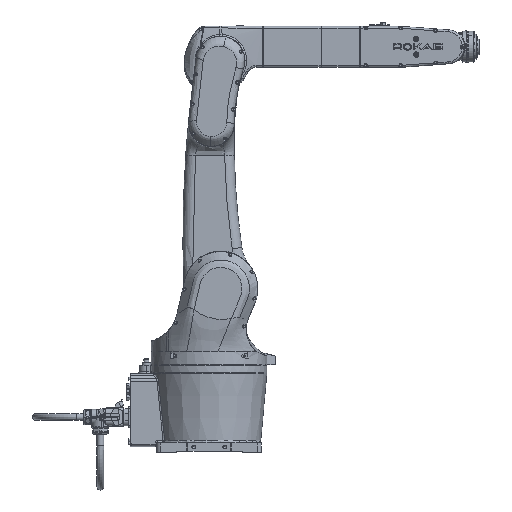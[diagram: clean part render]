
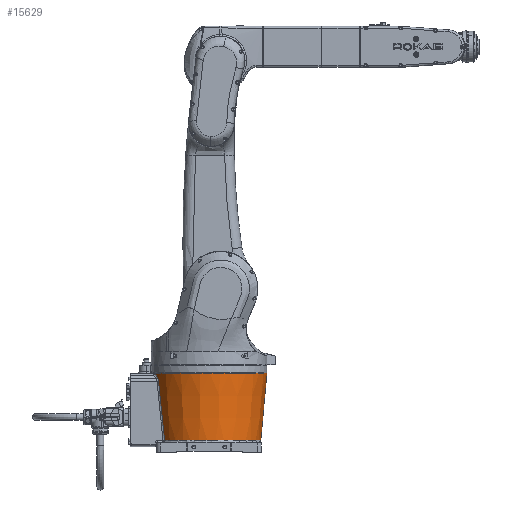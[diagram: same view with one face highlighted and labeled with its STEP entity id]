
A CAD part, front view. The second image highlights one B-rep face of the part: STEP entity #15629.
In plain terms, the highlighted conical face has half-angle 5.108 degrees and reference radius 133 mm.
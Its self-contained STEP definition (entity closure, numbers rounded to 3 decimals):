
#2725=CONICAL_SURFACE('',#70147,133.,5.108);
#3372=CIRCLE('',#70144,133.487);
#3373=CIRCLE('',#70145,133.487);
#3374=CIRCLE('',#70146,148.96);
#15629=ADVANCED_FACE('',(#21958),#2725,.T.);
#21958=FACE_OUTER_BOUND('',#25722,.T.);
#25722=EDGE_LOOP('',(#31470,#31471,#31472,#31473,#31474,#31475,#31476,#31477,
#31478,#31479,#31480,#31481,#31482,#31483));
#31470=ORIENTED_EDGE('',*,*,#57339,.T.);
#31471=ORIENTED_EDGE('',*,*,#57340,.T.);
#31472=ORIENTED_EDGE('',*,*,#57341,.T.);
#31473=ORIENTED_EDGE('',*,*,#57342,.T.);
#31474=ORIENTED_EDGE('',*,*,#57343,.T.);
#31475=ORIENTED_EDGE('',*,*,#57344,.T.);
#31476=ORIENTED_EDGE('',*,*,#57345,.T.);
#31477=ORIENTED_EDGE('',*,*,#57346,.T.);
#31478=ORIENTED_EDGE('',*,*,#57347,.T.);
#31479=ORIENTED_EDGE('',*,*,#57348,.T.);
#31480=ORIENTED_EDGE('',*,*,#57349,.T.);
#31481=ORIENTED_EDGE('',*,*,#57350,.T.);
#31482=ORIENTED_EDGE('',*,*,#57351,.T.);
#31483=ORIENTED_EDGE('',*,*,#57352,.T.);
#51026=VERTEX_POINT('',#95939);
#51027=VERTEX_POINT('',#95940);
#51028=VERTEX_POINT('',#95945);
#51029=VERTEX_POINT('',#95947);
#51030=VERTEX_POINT('',#95958);
#51031=VERTEX_POINT('',#95960);
#51032=VERTEX_POINT('',#95965);
#51033=VERTEX_POINT('',#95970);
#51034=VERTEX_POINT('',#95977);
#51035=VERTEX_POINT('',#95984);
#51036=VERTEX_POINT('',#95989);
#51037=VERTEX_POINT('',#95991);
#51038=VERTEX_POINT('',#95996);
#51039=VERTEX_POINT('',#96003);
#57339=EDGE_CURVE('',#51026,#51027,#67054,.T.);
#57340=EDGE_CURVE('',#51027,#51028,#67055,.T.);
#57341=EDGE_CURVE('',#51028,#51029,#3372,.T.);
#57342=EDGE_CURVE('',#51029,#51030,#67056,.T.);
#57343=EDGE_CURVE('',#51030,#51031,#3373,.T.);
#57344=EDGE_CURVE('',#51031,#51032,#67057,.T.);
#57345=EDGE_CURVE('',#51032,#51033,#67058,.T.);
#57346=EDGE_CURVE('',#51033,#51034,#67059,.T.);
#57347=EDGE_CURVE('',#51034,#51035,#67060,.T.);
#57348=EDGE_CURVE('',#51035,#51036,#67061,.T.);
#57349=EDGE_CURVE('',#51036,#51037,#3374,.T.);
#57350=EDGE_CURVE('',#51037,#51038,#67062,.T.);
#57351=EDGE_CURVE('',#51038,#51039,#67063,.T.);
#57352=EDGE_CURVE('',#51039,#51026,#67064,.T.);
#67054=B_SPLINE_CURVE_WITH_KNOTS('',3,(#95935,#95936,#95937,#95938),
 .UNSPECIFIED.,.F.,.F.,(4,4),(0.,1.),.UNSPECIFIED.);
#67055=B_SPLINE_CURVE_WITH_KNOTS('',3,(#95941,#95942,#95943,#95944),
 .UNSPECIFIED.,.F.,.F.,(4,4),(0.,1.),.UNSPECIFIED.);
#67056=B_SPLINE_CURVE_WITH_KNOTS('',3,(#95948,#95949,#95950,#95951,#95952,
#95953,#95954,#95955,#95956,#95957),.UNSPECIFIED.,.F.,.F.,(4,2,2,2,4),(0.,
0.25,0.5,0.75,1.),.UNSPECIFIED.);
#67057=B_SPLINE_CURVE_WITH_KNOTS('',3,(#95961,#95962,#95963,#95964),
 .UNSPECIFIED.,.F.,.F.,(4,4),(0.,1.),.UNSPECIFIED.);
#67058=B_SPLINE_CURVE_WITH_KNOTS('',3,(#95966,#95967,#95968,#95969),
 .UNSPECIFIED.,.F.,.F.,(4,4),(0.,1.),.UNSPECIFIED.);
#67059=B_SPLINE_CURVE_WITH_KNOTS('',3,(#95971,#95972,#95973,#95974,#95975,
#95976),.UNSPECIFIED.,.F.,.F.,(4,2,4),(0.,0.5,1.),.UNSPECIFIED.);
#67060=B_SPLINE_CURVE_WITH_KNOTS('',3,(#95978,#95979,#95980,#95981,#95982,
#95983),.UNSPECIFIED.,.F.,.F.,(4,2,4),(0.,0.707,1.),
 .UNSPECIFIED.);
#67061=B_SPLINE_CURVE_WITH_KNOTS('',3,(#95985,#95986,#95987,#95988),
 .UNSPECIFIED.,.F.,.F.,(4,4),(0.,1.),.UNSPECIFIED.);
#67062=B_SPLINE_CURVE_WITH_KNOTS('',3,(#95992,#95993,#95994,#95995),
 .UNSPECIFIED.,.F.,.F.,(4,4),(0.,1.),.UNSPECIFIED.);
#67063=B_SPLINE_CURVE_WITH_KNOTS('',3,(#95997,#95998,#95999,#96000,#96001,
#96002),.UNSPECIFIED.,.F.,.F.,(4,2,4),(0.,0.707,1.),
 .UNSPECIFIED.);
#67064=B_SPLINE_CURVE_WITH_KNOTS('',3,(#96004,#96005,#96006,#96007,#96008,
#96009),.UNSPECIFIED.,.F.,.F.,(4,2,4),(0.,0.5,1.),.UNSPECIFIED.);
#70144=AXIS2_PLACEMENT_3D('',#95946,#77343,#77344);
#70145=AXIS2_PLACEMENT_3D('',#95959,#77345,#77346);
#70146=AXIS2_PLACEMENT_3D('',#95990,#77347,#77348);
#70147=AXIS2_PLACEMENT_3D('',#96010,#77349,#77350);
#77343=DIRECTION('',(0.,0.,1.));
#77344=DIRECTION('',(-1.,0.,0.));
#77345=DIRECTION('',(0.,0.,1.));
#77346=DIRECTION('',(-1.,0.,0.));
#77347=DIRECTION('',(0.,0.,-1.));
#77348=DIRECTION('',(1.,0.,0.));
#77349=DIRECTION('',(0.,0.,1.));
#77350=DIRECTION('',(-1.,0.,0.));
#95935=CARTESIAN_POINT('',(-130.53,-67.707,182.135));
#95936=CARTESIAN_POINT('',(-129.277,-67.69,169.599));
#95937=CARTESIAN_POINT('',(-128.036,-67.673,157.22));
#95938=CARTESIAN_POINT('',(-126.807,-67.656,145.));
#95939=CARTESIAN_POINT('',(-130.53,-67.707,182.135));
#95940=CARTESIAN_POINT('',(-126.807,-67.656,145.));
#95941=CARTESIAN_POINT('',(-126.807,-67.656,145.));
#95942=CARTESIAN_POINT('',(-122.799,-67.6,105.147));
#95943=CARTESIAN_POINT('',(-118.921,-67.542,66.962));
#95944=CARTESIAN_POINT('',(-115.173,-67.482,30.445));
#95945=CARTESIAN_POINT('',(-115.173,-67.482,30.445));
#95946=CARTESIAN_POINT('',(0.,0.,30.445));
#95947=CARTESIAN_POINT('',(128.216,-37.138,30.445));
#95948=CARTESIAN_POINT('',(128.216,-37.138,30.445));
#95949=CARTESIAN_POINT('',(129.97,-31.084,30.445));
#95950=CARTESIAN_POINT('',(131.228,-24.929,29.795));
#95951=CARTESIAN_POINT('',(132.878,-12.547,28.608));
#95952=CARTESIAN_POINT('',(133.272,-6.328,28.073));
#95953=CARTESIAN_POINT('',(133.277,6.205,28.067));
#95954=CARTESIAN_POINT('',(132.88,12.525,28.606));
#95955=CARTESIAN_POINT('',(131.229,24.923,29.794));
#95956=CARTESIAN_POINT('',(129.98,31.049,30.445));
#95957=CARTESIAN_POINT('',(128.216,37.138,30.445));
#95958=CARTESIAN_POINT('',(128.216,37.138,30.445));
#95959=CARTESIAN_POINT('',(0.,0.,30.445));
#95960=CARTESIAN_POINT('',(-115.173,67.482,30.445));
#95961=CARTESIAN_POINT('',(-115.173,67.482,30.445));
#95962=CARTESIAN_POINT('',(-118.921,67.542,66.962));
#95963=CARTESIAN_POINT('',(-122.799,67.6,105.147));
#95964=CARTESIAN_POINT('',(-126.807,67.656,145.));
#95965=CARTESIAN_POINT('',(-126.807,67.656,145.));
#95966=CARTESIAN_POINT('',(-126.807,67.656,145.));
#95967=CARTESIAN_POINT('',(-128.036,67.673,157.22));
#95968=CARTESIAN_POINT('',(-129.277,67.69,169.599));
#95969=CARTESIAN_POINT('',(-130.53,67.707,182.135));
#95970=CARTESIAN_POINT('',(-130.53,67.707,182.135));
#95971=CARTESIAN_POINT('',(-130.53,67.707,182.135));
#95972=CARTESIAN_POINT('',(-130.724,67.71,184.07));
#95973=CARTESIAN_POINT('',(-131.106,67.346,185.981));
#95974=CARTESIAN_POINT('',(-132.176,65.942,189.569));
#95975=CARTESIAN_POINT('',(-132.832,64.947,191.162));
#95976=CARTESIAN_POINT('',(-133.589,63.648,192.555));
#95977=CARTESIAN_POINT('',(-133.589,63.648,192.555));
#95978=CARTESIAN_POINT('',(-133.589,63.648,192.555));
#95979=CARTESIAN_POINT('',(-134.821,61.534,194.82));
#95980=CARTESIAN_POINT('',(-135.995,59.405,197.103));
#95981=CARTESIAN_POINT('',(-137.576,56.372,200.352));
#95982=CARTESIAN_POINT('',(-138.03,55.48,201.308));
#95983=CARTESIAN_POINT('',(-138.475,54.586,202.266));
#95984=CARTESIAN_POINT('',(-138.475,54.586,202.266));
#95985=CARTESIAN_POINT('',(-138.475,54.586,202.266));
#95986=CARTESIAN_POINT('',(-138.688,54.157,202.725));
#95987=CARTESIAN_POINT('',(-138.907,53.699,203.157));
#95988=CARTESIAN_POINT('',(-139.13,53.218,203.556));
#95989=CARTESIAN_POINT('',(-139.13,53.218,203.556));
#95990=CARTESIAN_POINT('',(0.,0.,203.556));
#95991=CARTESIAN_POINT('',(-139.13,-53.218,203.556));
#95992=CARTESIAN_POINT('',(-139.13,-53.218,203.556));
#95993=CARTESIAN_POINT('',(-138.907,-53.699,203.157));
#95994=CARTESIAN_POINT('',(-138.688,-54.157,202.725));
#95995=CARTESIAN_POINT('',(-138.475,-54.586,202.266));
#95996=CARTESIAN_POINT('',(-138.475,-54.586,202.266));
#95997=CARTESIAN_POINT('',(-138.475,-54.586,202.266));
#95998=CARTESIAN_POINT('',(-137.404,-56.74,199.958));
#95999=CARTESIAN_POINT('',(-136.277,-58.882,197.663));
#96000=CARTESIAN_POINT('',(-134.602,-61.891,194.438));
#96001=CARTESIAN_POINT('',(-134.1,-62.771,193.495));
#96002=CARTESIAN_POINT('',(-133.589,-63.648,192.555));
#96003=CARTESIAN_POINT('',(-133.589,-63.648,192.555));
#96004=CARTESIAN_POINT('',(-133.589,-63.648,192.555));
#96005=CARTESIAN_POINT('',(-132.832,-64.948,191.162));
#96006=CARTESIAN_POINT('',(-132.185,-65.931,189.599));
#96007=CARTESIAN_POINT('',(-131.098,-67.358,185.956));
#96008=CARTESIAN_POINT('',(-130.724,-67.71,184.075));
#96009=CARTESIAN_POINT('',(-130.53,-67.707,182.135));
#96010=CARTESIAN_POINT('',(0.,0.,25.));
